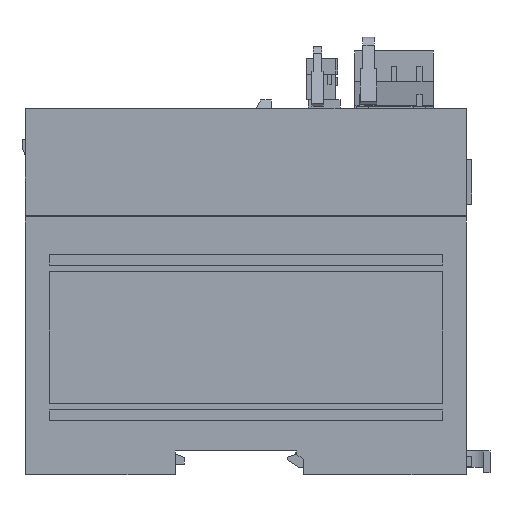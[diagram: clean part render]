
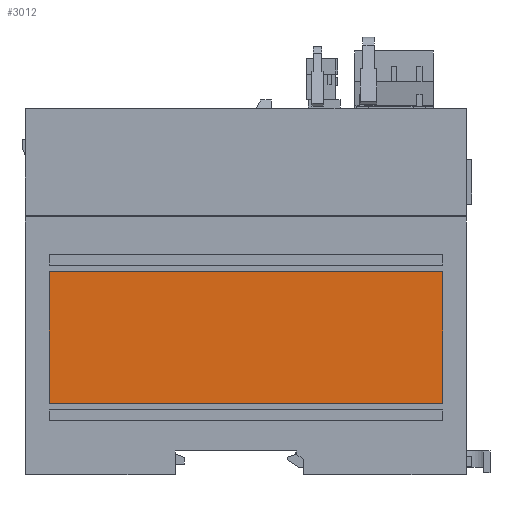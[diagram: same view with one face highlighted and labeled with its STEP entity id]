
A CAD part, left-side view. The second image highlights one B-rep face of the part: STEP entity #3012.
In plain terms, the highlighted planar face has unit normal (-1, 0, 0).
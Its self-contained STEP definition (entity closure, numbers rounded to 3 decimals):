
#3012 = ADVANCED_FACE ( 'NONE', ( #14206 ), #14205, .T. ) ;
#3013 = EDGE_LOOP ( 'NONE', ( #3014, #3015, #3016, #3069 ) ) ;
#3014 = ORIENTED_EDGE ( 'NONE', *, *, #3036, .T. ) ;
#3015 = ORIENTED_EDGE ( 'NONE', *, *, #3090, .T. ) ;
#3016 = ORIENTED_EDGE ( 'NONE', *, *, #3027, .T. ) ;
#3018 = EDGE_CURVE ( 'NONE', #3019, #3037, #14200, .T. ) ;
#3019 = VERTEX_POINT ( 'NONE', #14261 ) ;
#3027 = EDGE_CURVE ( 'NONE', #3028, #3019, #14250, .T. ) ;
#3028 = VERTEX_POINT ( 'NONE', #14246 ) ;
#3034 = VERTEX_POINT ( 'NONE', #14237 ) ;
#3036 = EDGE_CURVE ( 'NONE', #3037, #3034, #14236, .T. ) ;
#3037 = VERTEX_POINT ( 'NONE', #14232 ) ;
#3069 = ORIENTED_EDGE ( 'NONE', *, *, #3018, .T. ) ;
#3090 = EDGE_CURVE ( 'NONE', #3034, #3028, #14339, .T. ) ;
#14197 = DIRECTION ( 'NONE',  ( 0., 0., -1. ) ) ;
#14198 = VECTOR ( 'NONE', #14197, 1000. ) ;
#14199 = CARTESIAN_POINT ( 'NONE',  ( 0.5, 55., 21. ) ) ;
#14200 = LINE ( 'NONE', #14199, #14198 ) ;
#14201 = DIRECTION ( 'NONE',  ( 0., 0., 1. ) ) ;
#14202 = DIRECTION ( 'NONE',  ( -1., 0., 0. ) ) ;
#14203 = CARTESIAN_POINT ( 'NONE',  ( 0.5, 55., 21. ) ) ;
#14204 = AXIS2_PLACEMENT_3D ( 'NONE', #14203, #14202, #14201 ) ;
#14205 = PLANE ( 'NONE',  #14204 ) ;
#14206 = FACE_OUTER_BOUND ( 'NONE', #3013, .T. ) ;
#14232 = CARTESIAN_POINT ( 'NONE',  ( 0.5, 55., 21. ) ) ;
#14233 = DIRECTION ( 'NONE',  ( 0., -1., 0. ) ) ;
#14234 = VECTOR ( 'NONE', #14233, 1000. ) ;
#14235 = CARTESIAN_POINT ( 'NONE',  ( 0.5, 55., 21. ) ) ;
#14236 = LINE ( 'NONE', #14235, #14234 ) ;
#14237 = CARTESIAN_POINT ( 'NONE',  ( 0.5, -61., 21. ) ) ;
#14246 = CARTESIAN_POINT ( 'NONE',  ( 0.5, -61., 59.9 ) ) ;
#14247 = DIRECTION ( 'NONE',  ( 0., 1., 0. ) ) ;
#14248 = VECTOR ( 'NONE', #14247, 1000. ) ;
#14249 = CARTESIAN_POINT ( 'NONE',  ( 0.5, 55., 59.9 ) ) ;
#14250 = LINE ( 'NONE', #14249, #14248 ) ;
#14261 = CARTESIAN_POINT ( 'NONE',  ( 0.5, 55., 59.9 ) ) ;
#14336 = DIRECTION ( 'NONE',  ( 0., 0., 1. ) ) ;
#14337 = VECTOR ( 'NONE', #14336, 1000. ) ;
#14338 = CARTESIAN_POINT ( 'NONE',  ( 0.5, -61., 21. ) ) ;
#14339 = LINE ( 'NONE', #14338, #14337 ) ;
